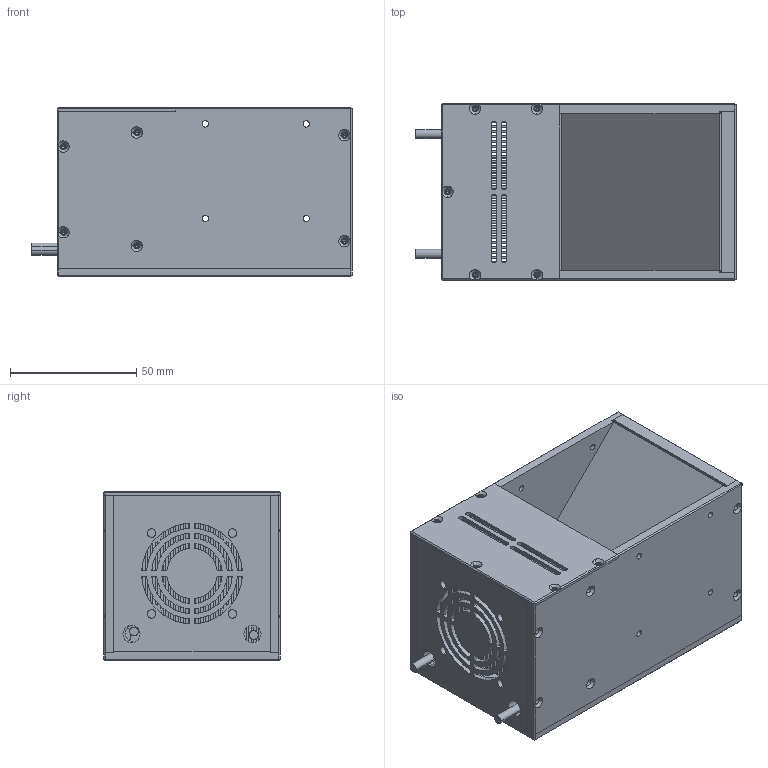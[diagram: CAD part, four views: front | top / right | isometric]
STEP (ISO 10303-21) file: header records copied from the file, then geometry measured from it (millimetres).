
FILE_DESCRIPTION (( 'STEP AP203' ), '1' );
FILE_NAME ('PPX-GCO70-W.STEP', '2022-08-27T01:12:08', ( 'Windows User' ), ( 'P R C' ), 'SwSTEP 2.0', 'SolidWorks 2016', '' );
FILE_SCHEMA (( 'CONFIG_CONTROL_DESIGN' ));
Length unit declared in the file: millimetre
Products named in the file (1): PPX-GCO70-W
Bounding box: 127 x 70 x 67 mm (x, y, z)
Volume: 167596.9 mm3; surface area: 160985.9 mm2
Topology: 13 solids, 13 shells, 980 faces, 2609 edges, 1669 vertices
Faces by surface type: plane 604, cylinder 256, cone 120
Entity records: 30226 total; most frequent: CARTESIAN_POINT 5330, ORIENTED_EDGE 5102, DIRECTION 5073, EDGE_CURVE 2551, LINE 1941, VECTOR 1941, VERTEX_POINT 1669, AXIS2_PLACEMENT_3D 1566
